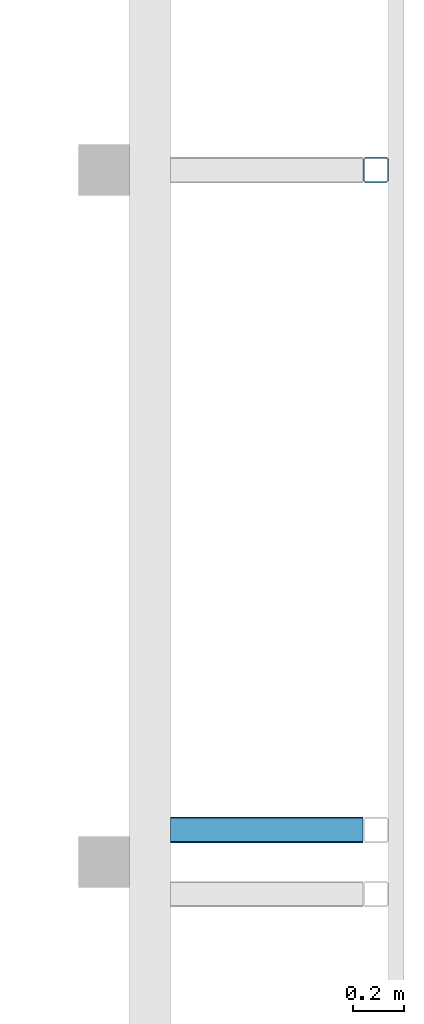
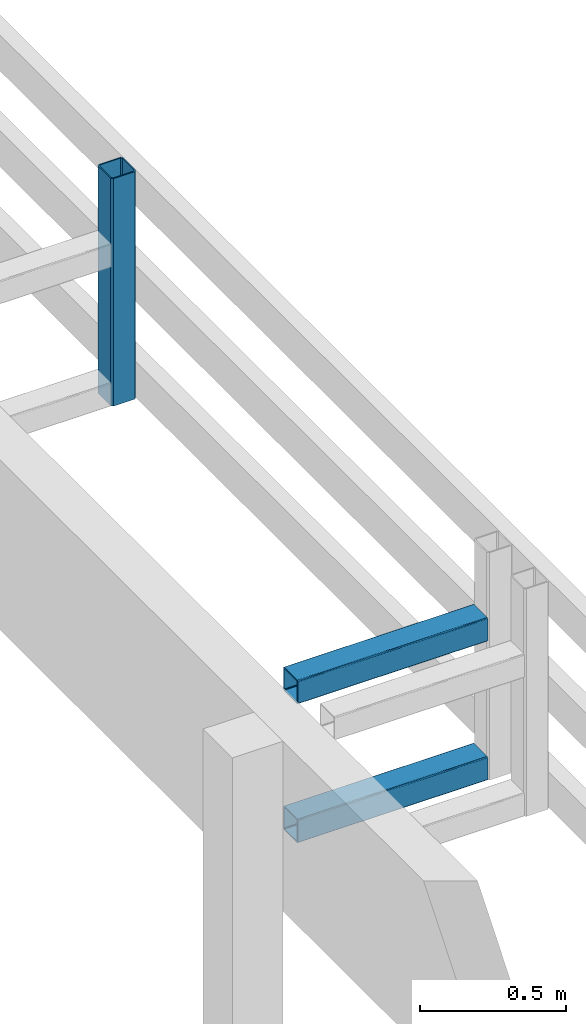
# One storey, part 38 of 42: 3 members.
"""IFC4 building model written with IfcOpenShell, lengths in metres."""

from ifc_helpers import new_model, entity, si_unit, converted_unit, derived_unit, frame, origin, place, context, subcontext, project, spatial, faceted_brep, material, element, save


model = new_model("IFC4")

# Units and contexts
model_context = context("Model", 3, precision=1e-05, world=origin())
plan_context = context("Plan", 2, precision=1e-05, world=origin())
body_context = subcontext(model_context, "Body", "Model", "MODEL_VIEW")
ifc_project = project(units=[si_unit("LENGTHUNIT", "METRE"), si_unit("AREAUNIT", "SQUARE_METRE"), si_unit("VOLUMEUNIT", "CUBIC_METRE"), si_unit("MASSUNIT", "GRAM", prefix="KILO"), converted_unit("PLANEANGLEUNIT", "DEGREE", entity("IfcPlaneAngleMeasure", 0.0174532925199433), si_unit("PLANEANGLEUNIT", "RADIAN"), dimensions=[0, 0, 0, 0, 0, 0, 0]), derived_unit("THERMALTRANSMITTANCEUNIT", [(si_unit("POWERUNIT", "WATT"), 1), (si_unit("THERMODYNAMICTEMPERATUREUNIT", "KELVIN"), -1), (si_unit("LENGTHUNIT", "METRE"), -2)]), derived_unit("VOLUMETRICFLOWRATEUNIT", [(si_unit("LENGTHUNIT", "METRE"), 3), (converted_unit("TIMEUNIT", "hour", entity("IfcTimeMeasure", 3600.0), si_unit("TIMEUNIT", "SECOND"), dimensions=[0, 0, 1, 0, 0, 0, 0]), -1), (si_unit("LENGTHUNIT", "METRE"), -1)])], contexts=[model_context, plan_context])

# Site, building, storey
site_placement = place(None, origin())
site = spatial("IfcSite", under=ifc_project, at=site_placement, Name="Site", CompositionType="ELEMENT")
building_placement = place(site_placement, origin())
building = spatial("IfcBuilding", under=site, at=building_placement, Name="Admin", CompositionType="ELEMENT")
storey_placement = place(building_placement, frame((0.0, 0.0, 6.61)))
storey = spatial("IfcBuildingStorey", under=building, at=storey_placement, Name="02-Etage2", CompositionType="ELEMENT", Elevation=6.61)

# Members
ifc_material_1 = material(Name="S235")
member_1_placement = place(storey_placement, frame((58.9698001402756, 19.7594494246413, 2.28)))
element("IfcMember", 1, at=member_1_placement, inside=storey, material=ifc_material_1, Name="Bandeau R+2", context=body_context, shape_type="Brep", body=[
    faceted_brep([(0.0050000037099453, 0.00999999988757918, 0.0), (0.0050000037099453, 0.00999999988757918, 0.95), (0.00500000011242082, 0.0899999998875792, 0.95), (0.00500000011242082, 0.0899999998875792, 0.0), (0.0100000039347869, 0.0050000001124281, 0.0), (0.0100000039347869, 0.0050000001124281, 0.95), (0.090000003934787, 0.0050000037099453, 0.0), (0.090000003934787, 0.0050000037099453, 0.95), (0.0950000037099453, 0.0100000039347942, 0.0), (0.0950000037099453, 0.0100000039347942, 0.95), (0.0950000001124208, 0.0900000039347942, 0.0), (0.0950000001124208, 0.0900000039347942, 0.95), (0.0899999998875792, 0.0950000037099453, 0.0), (0.0899999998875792, 0.0950000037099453, 0.95), (0.00999999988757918, 0.0950000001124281, 0.0), (0.00999999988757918, 0.0950000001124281, 0.95), (0.00749999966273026, 0.1, 0.0), (0.00749999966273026, 0.1, 0.95), (0.0, 0.0924999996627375, 0.95), (0.0, 0.0924999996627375, 0.0), (0.0924999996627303, 0.100000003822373, 0.0), (0.0924999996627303, 0.100000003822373, 0.95), (0.1, 0.0925000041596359, 0.0), (0.1, 0.0925000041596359, 0.95), (0.100000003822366, 0.00750000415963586, 0.0), (0.100000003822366, 0.00750000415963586, 0.95), (0.0925000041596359, 3.82237340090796e-09, 0.0), (0.0925000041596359, 3.82237340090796e-09, 0.95), (0.00750000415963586, 0.0, 0.0), (0.00750000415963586, 0.0, 0.95), (3.82236612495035e-09, 0.00749999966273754, 0.0), (3.82236612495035e-09, 0.00749999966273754, 0.95)], [[[0, 1, 2, 3]], [[4, 5, 1, 0]], [[6, 7, 5, 4]], [[8, 9, 7, 6]], [[10, 11, 9, 8]], [[12, 13, 11, 10]], [[14, 15, 13, 12]], [[3, 2, 15, 14]], [[16, 17, 18, 19]], [[20, 21, 17, 16]], [[22, 23, 21, 20]], [[24, 25, 23, 22]], [[26, 27, 25, 24]], [[28, 29, 27, 26]], [[30, 31, 29, 28]], [[19, 18, 31, 30]], [[18, 17, 21, 23, 25, 27, 29, 31], [2, 1, 5, 7, 9, 11, 13, 15]], [[19, 30, 28, 26, 24, 22, 20, 16], [3, 14, 12, 10, 8, 6, 4, 0]]], orient=[[False], [False], [False], [False], [False], [False], [False], [False], [False], [False], [False], [False], [False], [False], [False], [False], [False, False], [False, False]]),
])
ifc_material_2 = material(Name="S235")
member_2_placement = place(storey_placement, frame((58.2198001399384, 17.1844493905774, 2.28)))
element("IfcMember", 2, at=member_2_placement, inside=storey, material=ifc_material_2, Name="Bandeau R+2", context=body_context, shape_type="Brep", body=[
    faceted_brep([(0.750000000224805, 0.0950000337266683, 0.09), (0.750000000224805, 0.0950000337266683, 0.01), (2.24834366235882e-10, 0.095, 0.01), (2.24834366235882e-10, 0.095, 0.09), (0.750000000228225, 0.094924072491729, 0.0908682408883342), (2.28254066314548e-10, 0.0949240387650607, 0.0908682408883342), (0.750000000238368, 0.0946984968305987, 0.0917101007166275), (2.3839675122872e-10, 0.0946984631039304, 0.0917101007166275), (0.750000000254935, 0.0943301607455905, 0.0925), (2.54964106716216e-10, 0.0943301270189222, 0.0925), (0.75000000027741, 0.0938302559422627, 0.0932139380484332), (2.77439539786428e-10, 0.0938302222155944, 0.0932139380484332), (0.750000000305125, 0.0932139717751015, 0.0938302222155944), (3.05153662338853e-10, 0.0932139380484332, 0.0938302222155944), (0.750000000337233, 0.0925000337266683, 0.0943301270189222), (3.37262463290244e-10, 0.0925, 0.0943301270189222), (0.750000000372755, 0.0917101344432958, 0.0946984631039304), (3.72783688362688e-10, 0.0917101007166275, 0.0946984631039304), (0.750000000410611, 0.0908682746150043, 0.0949240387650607), (4.10640495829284e-10, 0.090868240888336, 0.0949240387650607), (0.750000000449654, 0.0900000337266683, 0.095), (4.49683284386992e-10, 0.09, 0.095), (0.750000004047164, 0.0100000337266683, 0.095), (4.04719321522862e-09, 0.01, 0.095), (0.750000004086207, 0.00913179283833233, 0.0949240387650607), (4.08623600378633e-09, 0.009131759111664, 0.0949240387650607), (0.750000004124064, 0.00828993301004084, 0.0946984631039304), (4.12409281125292e-09, 0.00828989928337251, 0.0946984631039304), (0.750000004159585, 0.00750003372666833, 0.0943301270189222), (4.15961403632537e-09, 0.0075, 0.0943301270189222), (0.750000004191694, 0.00678609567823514, 0.0938302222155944), (4.19172283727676e-09, 0.00678606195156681, 0.0938302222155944), (0.750000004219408, 0.00616981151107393, 0.0932139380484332), (4.21943695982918e-09, 0.0061697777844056, 0.0932139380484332), (0.750000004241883, 0.00566990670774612, 0.0925), (4.24191239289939e-09, 0.00566987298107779, 0.0925), (0.750000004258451, 0.00530157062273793, 0.0917101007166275), (4.25847974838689e-09, 0.00530153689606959, 0.0917101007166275), (0.750000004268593, 0.00507599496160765, 0.0908682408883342), (4.26862243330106e-09, 0.00507596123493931, 0.0908682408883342), (0.750000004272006, 0.00500003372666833, 0.09), (4.27203485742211e-09, 0.005, 0.09), (0.750000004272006, 0.00500003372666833, 0.01), (4.27203485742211e-09, 0.005, 0.01), (0.750000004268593, 0.00507599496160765, 0.00913175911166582), (4.26862243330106e-09, 0.00507596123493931, 0.00913175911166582), (0.750000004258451, 0.00530157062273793, 0.00828989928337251), (4.25847974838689e-09, 0.00530153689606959, 0.00828989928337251), (0.750000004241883, 0.00566990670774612, 0.0075), (4.24191239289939e-09, 0.00566987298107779, 0.0075), (0.750000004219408, 0.00616981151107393, 0.00678606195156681), (4.21943695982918e-09, 0.0061697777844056, 0.00678606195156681), (0.750000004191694, 0.00678609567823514, 0.0061697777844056), (4.19172283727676e-09, 0.00678606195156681, 0.0061697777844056), (0.750000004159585, 0.00750003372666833, 0.00566987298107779), (4.15961403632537e-09, 0.0075, 0.00566987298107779), (0.750000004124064, 0.00828993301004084, 0.00530153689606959), (4.12409281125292e-09, 0.00828989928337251, 0.00530153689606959), (0.750000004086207, 0.00913179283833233, 0.00507596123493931), (4.08623600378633e-09, 0.009131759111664, 0.00507596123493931), (0.750000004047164, 0.0100000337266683, 0.005), (4.04719321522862e-09, 0.01, 0.005), (0.750000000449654, 0.0900000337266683, 0.005), (4.49683284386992e-10, 0.09, 0.005), (0.750000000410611, 0.0908682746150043, 0.00507596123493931), (4.10640495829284e-10, 0.090868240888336, 0.00507596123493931), (0.750000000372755, 0.0917101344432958, 0.00530153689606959), (3.72783688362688e-10, 0.0917101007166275, 0.00530153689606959), (0.750000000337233, 0.0925000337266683, 0.00566987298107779), (3.37262463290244e-10, 0.0925, 0.00566987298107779), (0.750000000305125, 0.0932139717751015, 0.0061697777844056), (3.05153662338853e-10, 0.0932139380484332, 0.0061697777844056), (0.75000000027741, 0.0938302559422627, 0.00678606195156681), (2.77439539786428e-10, 0.0938302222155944, 0.00678606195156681), (0.750000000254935, 0.0943301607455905, 0.0075), (2.54964106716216e-10, 0.0943301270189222, 0.0075), (0.750000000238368, 0.0946984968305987, 0.00828989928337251), (2.3839675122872e-10, 0.0946984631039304, 0.00828989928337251), (0.750000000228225, 0.094924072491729, 0.00913175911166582), (2.28254066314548e-10, 0.0949240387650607, 0.00913175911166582), (0.750000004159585, 0.00750003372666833, 0.1), (0.750000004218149, 0.00619767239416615, 0.099886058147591), (4.21817821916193e-09, 0.00619763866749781, 0.099886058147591), (4.15961403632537e-09, 0.0075, 0.1), (0.750000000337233, 0.0925000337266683, 0.1), (3.37262463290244e-10, 0.0925, 0.1), (0.750000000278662, 0.0938023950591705, 0.099886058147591), (2.78691004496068e-10, 0.0938023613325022, 0.099886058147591), (0.75000000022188, 0.0950651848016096, 0.0995476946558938), (2.2190943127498e-10, 0.0950651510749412, 0.0995476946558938), (0.750000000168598, 0.0962500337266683, 0.0989951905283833), (1.68627593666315e-10, 0.09625, 0.0989951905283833), (0.750000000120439, 0.0973209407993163, 0.0982453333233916), (1.20468030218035e-10, 0.097320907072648, 0.0982453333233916), (0.750000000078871, 0.0982453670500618, 0.0973209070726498), (7.89004843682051e-11, 0.0982453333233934, 0.0973209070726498), (0.750000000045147, 0.0989952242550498, 0.09625), (4.51764208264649e-11, 0.0989951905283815, 0.09625), (0.7500000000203, 0.099547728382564, 0.0950651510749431), (2.03290255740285e-11, 0.0995476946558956, 0.0950651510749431), (0.750000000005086, 0.0998860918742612, 0.0938023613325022), (5.11499820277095e-12, 0.0998860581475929, 0.0938023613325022), (0.749999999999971, 0.100000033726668, 0.0925), (0.0, 0.1, 0.0925), (0.750000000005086, 0.0998860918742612, 0.00619763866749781), (0.749999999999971, 0.100000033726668, 0.0075), (0.0, 0.1, 0.0075), (5.11499820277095e-12, 0.0998860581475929, 0.00619763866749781), (0.7500000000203, 0.099547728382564, 0.00493484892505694), (2.03290255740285e-11, 0.0995476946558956, 0.00493484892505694), (0.750000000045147, 0.0989952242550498, 0.00375), (4.51764208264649e-11, 0.0989951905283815, 0.00375), (0.750000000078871, 0.0982453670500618, 0.00267909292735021), (7.89004843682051e-11, 0.0982453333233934, 0.00267909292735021), (0.750000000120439, 0.0973209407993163, 0.00175466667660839), (1.20468030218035e-10, 0.097320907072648, 0.00175466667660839), (0.750000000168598, 0.0962500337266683, 0.00100480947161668), (1.68627593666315e-10, 0.09625, 0.00100480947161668), (0.75000000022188, 0.0950651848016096, 0.000452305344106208), (2.2190943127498e-10, 0.0950651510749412, 0.000452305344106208), (0.750000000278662, 0.0938023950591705, 0.000113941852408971), (2.78691004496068e-10, 0.0938023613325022, 0.000113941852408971), (0.750000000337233, 0.0925000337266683, 0.0), (3.37262463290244e-10, 0.0925, 0.0), (0.750000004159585, 0.00750003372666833, 0.0), (4.15961403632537e-09, 0.0075, 0.0), (0.750000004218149, 0.00619767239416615, 0.000113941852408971), (4.21817821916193e-09, 0.00619763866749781, 0.000113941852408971), (0.750000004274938, 0.00493488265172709, 0.000452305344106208), (4.27496706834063e-09, 0.00493484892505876, 0.000452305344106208), (0.75000000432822, 0.00375003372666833, 0.00100480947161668), (4.32824890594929e-09, 0.00375, 0.00100480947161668), (0.750000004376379, 0.00267912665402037, 0.00175466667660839), (4.37640846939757e-09, 0.00267909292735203, 0.00175466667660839), (0.750000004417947, 0.00175470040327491, 0.00267909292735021), (4.4179760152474e-09, 0.00175466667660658, 0.00267909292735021), (0.750000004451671, 0.00100484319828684, 0.00375), (4.45170007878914e-09, 0.0010048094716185, 0.00375), (0.750000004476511, 0.000452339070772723, 0.00493484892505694), (4.47654019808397e-09, 0.000452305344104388, 0.00493484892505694), (0.750000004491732, 0.000113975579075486, 0.00619763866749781), (4.49176150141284e-09, 0.000113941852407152, 0.00619763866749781), (0.750000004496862, 3.37266683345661e-08, 0.0075), (4.49688377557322e-09, 0.0, 0.0075), (0.750000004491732, 0.000113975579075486, 0.0938023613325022), (0.750000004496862, 3.37266683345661e-08, 0.0925), (4.49688377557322e-09, 0.0, 0.0925), (4.49176150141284e-09, 0.000113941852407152, 0.0938023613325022), (0.750000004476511, 0.000452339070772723, 0.0950651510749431), (4.47654019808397e-09, 0.000452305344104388, 0.0950651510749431), (0.750000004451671, 0.00100484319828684, 0.09625), (4.45170007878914e-09, 0.0010048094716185, 0.09625), (0.750000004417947, 0.00175470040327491, 0.0973209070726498), (4.4179760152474e-09, 0.00175466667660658, 0.0973209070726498), (0.750000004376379, 0.00267912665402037, 0.0982453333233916), (4.37640846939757e-09, 0.00267909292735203, 0.0982453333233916), (0.75000000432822, 0.00375003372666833, 0.0989951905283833), (4.32824890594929e-09, 0.00375, 0.0989951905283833), (0.750000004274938, 0.00493488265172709, 0.0995476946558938), (4.27496706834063e-09, 0.00493484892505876, 0.0995476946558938)], [[[0, 1, 2, 3]], [[4, 0, 3, 5]], [[6, 4, 5, 7]], [[8, 6, 7, 9]], [[10, 8, 9, 11]], [[12, 10, 11, 13]], [[14, 12, 13, 15]], [[16, 14, 15, 17]], [[18, 16, 17, 19]], [[20, 18, 19, 21]], [[22, 20, 21, 23]], [[24, 22, 23, 25]], [[26, 24, 25, 27]], [[28, 26, 27, 29]], [[30, 28, 29, 31]], [[32, 30, 31, 33]], [[34, 32, 33, 35]], [[36, 34, 35, 37]], [[38, 36, 37, 39]], [[40, 38, 39, 41]], [[42, 40, 41, 43]], [[44, 42, 43, 45]], [[46, 44, 45, 47]], [[48, 46, 47, 49]], [[50, 48, 49, 51]], [[52, 50, 51, 53]], [[54, 52, 53, 55]], [[56, 54, 55, 57]], [[58, 56, 57, 59]], [[60, 58, 59, 61]], [[62, 60, 61, 63]], [[64, 62, 63, 65]], [[66, 64, 65, 67]], [[68, 66, 67, 69]], [[70, 68, 69, 71]], [[72, 70, 71, 73]], [[74, 72, 73, 75]], [[76, 74, 75, 77]], [[78, 76, 77, 79]], [[1, 78, 79, 2]], [[80, 81, 82, 83]], [[84, 80, 83, 85]], [[86, 84, 85, 87]], [[88, 86, 87, 89]], [[90, 88, 89, 91]], [[92, 90, 91, 93]], [[94, 92, 93, 95]], [[96, 94, 95, 97]], [[98, 96, 97, 99]], [[100, 98, 99, 101]], [[102, 100, 101, 103]], [[104, 105, 106, 107]], [[108, 104, 107, 109]], [[110, 108, 109, 111]], [[112, 110, 111, 113]], [[114, 112, 113, 115]], [[116, 114, 115, 117]], [[118, 116, 117, 119]], [[120, 118, 119, 121]], [[122, 120, 121, 123]], [[124, 122, 123, 125]], [[126, 124, 125, 127]], [[128, 126, 127, 129]], [[130, 128, 129, 131]], [[132, 130, 131, 133]], [[134, 132, 133, 135]], [[136, 134, 135, 137]], [[138, 136, 137, 139]], [[140, 138, 139, 141]], [[142, 140, 141, 143]], [[144, 145, 146, 147]], [[148, 144, 147, 149]], [[150, 148, 149, 151]], [[152, 150, 151, 153]], [[154, 152, 153, 155]], [[156, 154, 155, 157]], [[158, 156, 157, 159]], [[81, 158, 159, 82]], [[146, 143, 141, 139, 137, 135, 133, 131, 129, 127, 125, 123, 121, 119, 117, 115, 113, 111, 109, 107, 106, 103, 101, 99, 97, 95, 93, 91, 89, 87, 85, 83, 82, 159, 157, 155, 153, 151, 149, 147], [2, 79, 77, 75, 73, 71, 69, 67, 65, 63, 61, 59, 57, 55, 53, 51, 49, 47, 45, 43, 41, 39, 37, 35, 33, 31, 29, 27, 25, 23, 21, 19, 17, 15, 13, 11, 9, 7, 5, 3]], [[103, 106, 105, 102]], [[102, 105, 104, 108, 110, 112, 114, 116, 118, 120, 122, 124, 126, 128, 130, 132, 134, 136, 138, 140, 142, 145, 144, 148, 150, 152, 154, 156, 158, 81, 80, 84, 86, 88, 90, 92, 94, 96, 98, 100], [1, 0, 4, 6, 8, 10, 12, 14, 16, 18, 20, 22, 24, 26, 28, 30, 32, 34, 36, 38, 40, 42, 44, 46, 48, 50, 52, 54, 56, 58, 60, 62, 64, 66, 68, 70, 72, 74, 76, 78]], [[145, 142, 143, 146]]], orient=[[False], [False], [False], [False], [False], [False], [False], [False], [False], [False], [False], [False], [False], [False], [False], [False], [False], [False], [False], [False], [False], [False], [False], [False], [False], [False], [False], [False], [False], [False], [False], [False], [False], [False], [False], [False], [False], [False], [False], [False], [False], [False], [False], [False], [False], [False], [False], [False], [False], [False], [False], [False], [False], [False], [False], [False], [False], [False], [False], [False], [False], [False], [False], [False], [False], [False], [False], [False], [False], [False], [False], [False], [False], [False], [False], [False], [False], [False], [False, False], [False], [False, False], [False]]),
])
ifc_material_3 = material(Name="S235")
member_3_placement = place(storey_placement, frame((58.2198001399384, 17.1844493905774, 2.86)))
element("IfcMember", 3, at=member_3_placement, inside=storey, material=ifc_material_3, Name="Bandeau R+2", context=body_context, shape_type="Brep", body=[
    faceted_brep([(0.75000000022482, 0.0950000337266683, 0.09), (0.75000000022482, 0.0950000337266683, 0.01), (2.24827090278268e-10, 0.095, 0.01), (2.24827090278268e-10, 0.095, 0.09), (0.75000000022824, 0.094924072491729, 0.0908682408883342), (2.28246790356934e-10, 0.0949240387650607, 0.0908682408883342), (0.750000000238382, 0.0946984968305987, 0.0917101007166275), (2.38389475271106e-10, 0.0946984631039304, 0.0917101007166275), (0.75000000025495, 0.0943301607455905, 0.0925), (2.54956830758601e-10, 0.0943301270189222, 0.0925), (0.750000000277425, 0.0938302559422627, 0.0932139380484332), (2.77432263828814e-10, 0.0938302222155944, 0.0932139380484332), (0.750000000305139, 0.0932139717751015, 0.0938302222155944), (3.05146386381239e-10, 0.0932139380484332, 0.0938302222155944), (0.750000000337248, 0.0925000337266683, 0.0943301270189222), (3.3725518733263e-10, 0.0925, 0.0943301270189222), (0.750000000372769, 0.0917101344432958, 0.0946984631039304), (3.72776412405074e-10, 0.0917101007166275, 0.0946984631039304), (0.750000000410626, 0.0908682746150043, 0.0949240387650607), (4.1063321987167e-10, 0.090868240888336, 0.0949240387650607), (0.750000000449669, 0.0900000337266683, 0.095), (4.49676008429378e-10, 0.09, 0.095), (0.750000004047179, 0.0100000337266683, 0.095), (4.047185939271e-09, 0.01, 0.095), (0.750000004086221, 0.00913179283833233, 0.0949240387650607), (4.08622872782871e-09, 0.009131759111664, 0.0949240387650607), (0.750000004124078, 0.00828993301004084, 0.0946984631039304), (4.12408553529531e-09, 0.00828989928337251, 0.0946984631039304), (0.7500000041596, 0.00750003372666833, 0.0943301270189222), (4.15960676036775e-09, 0.0075, 0.0943301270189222), (0.750000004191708, 0.00678609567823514, 0.0938302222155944), (4.19171556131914e-09, 0.00678606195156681, 0.0938302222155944), (0.750000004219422, 0.00616981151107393, 0.0932139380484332), (4.21942968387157e-09, 0.0061697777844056, 0.0932139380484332), (0.750000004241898, 0.00566990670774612, 0.0925), (4.24190511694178e-09, 0.00566987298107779, 0.0925), (0.750000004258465, 0.00530157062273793, 0.0917101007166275), (4.25847247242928e-09, 0.00530153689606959, 0.0917101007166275), (0.750000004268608, 0.00507599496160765, 0.0908682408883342), (4.26861515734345e-09, 0.00507596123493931, 0.0908682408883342), (0.75000000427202, 0.00500003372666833, 0.09), (4.2720275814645e-09, 0.005, 0.09), (0.75000000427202, 0.00500003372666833, 0.01), (4.2720275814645e-09, 0.005, 0.01), (0.750000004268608, 0.00507599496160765, 0.00913175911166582), (4.26861515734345e-09, 0.00507596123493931, 0.00913175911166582), (0.750000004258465, 0.00530157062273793, 0.00828989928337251), (4.25847247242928e-09, 0.00530153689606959, 0.00828989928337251), (0.750000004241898, 0.00566990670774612, 0.0075), (4.24190511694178e-09, 0.00566987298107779, 0.0075), (0.750000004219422, 0.00616981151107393, 0.00678606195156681), (4.21942968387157e-09, 0.0061697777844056, 0.00678606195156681), (0.750000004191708, 0.00678609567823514, 0.0061697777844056), (4.19171556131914e-09, 0.00678606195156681, 0.0061697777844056), (0.7500000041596, 0.00750003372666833, 0.00566987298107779), (4.15960676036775e-09, 0.0075, 0.00566987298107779), (0.750000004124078, 0.00828993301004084, 0.00530153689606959), (4.12408553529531e-09, 0.00828989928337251, 0.00530153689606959), (0.750000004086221, 0.00913179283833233, 0.00507596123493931), (4.08622872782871e-09, 0.009131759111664, 0.00507596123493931), (0.750000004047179, 0.0100000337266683, 0.005), (4.047185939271e-09, 0.01, 0.005), (0.750000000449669, 0.0900000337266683, 0.005), (4.49676008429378e-10, 0.09, 0.005), (0.750000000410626, 0.0908682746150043, 0.00507596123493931), (4.1063321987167e-10, 0.090868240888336, 0.00507596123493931), (0.750000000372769, 0.0917101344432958, 0.00530153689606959), (3.72776412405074e-10, 0.0917101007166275, 0.00530153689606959), (0.750000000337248, 0.0925000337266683, 0.00566987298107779), (3.3725518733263e-10, 0.0925, 0.00566987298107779), (0.750000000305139, 0.0932139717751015, 0.0061697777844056), (3.05146386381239e-10, 0.0932139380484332, 0.0061697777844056), (0.750000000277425, 0.0938302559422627, 0.00678606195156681), (2.77432263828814e-10, 0.0938302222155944, 0.00678606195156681), (0.75000000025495, 0.0943301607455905, 0.0075), (2.54956830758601e-10, 0.0943301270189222, 0.0075), (0.750000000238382, 0.0946984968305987, 0.00828989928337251), (2.38389475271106e-10, 0.0946984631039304, 0.00828989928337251), (0.75000000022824, 0.094924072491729, 0.00913175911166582), (2.28246790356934e-10, 0.0949240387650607, 0.00913175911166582), (0.7500000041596, 0.00750003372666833, 0.1), (0.750000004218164, 0.00619767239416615, 0.099886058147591), (4.21817094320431e-09, 0.00619763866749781, 0.099886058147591), (4.15960676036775e-09, 0.0075, 0.1), (0.750000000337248, 0.0925000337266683, 0.1), (3.3725518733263e-10, 0.0925, 0.1), (0.750000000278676, 0.0938023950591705, 0.099886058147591), (2.78683728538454e-10, 0.0938023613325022, 0.099886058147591), (0.750000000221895, 0.0950651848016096, 0.0995476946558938), (2.21902155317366e-10, 0.0950651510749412, 0.0995476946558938), (0.750000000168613, 0.0962500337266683, 0.0989951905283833), (1.68620317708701e-10, 0.09625, 0.0989951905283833), (0.750000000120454, 0.0973209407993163, 0.0982453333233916), (1.20460754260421e-10, 0.097320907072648, 0.0982453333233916), (0.750000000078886, 0.0982453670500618, 0.0973209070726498), (7.88932084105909e-11, 0.0982453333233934, 0.0973209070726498), (0.750000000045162, 0.0989952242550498, 0.09625), (4.51691448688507e-11, 0.0989951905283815, 0.09625), (0.750000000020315, 0.099547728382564, 0.0950651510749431), (2.03217496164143e-11, 0.0995476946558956, 0.0950651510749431), (0.7500000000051, 0.0998860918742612, 0.0938023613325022), (5.10772224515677e-12, 0.0998860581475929, 0.0938023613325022), (0.749999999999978, 0.100000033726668, 0.0925), (0.0, 0.1, 0.0925), (0.7500000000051, 0.0998860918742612, 0.00619763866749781), (0.749999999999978, 0.100000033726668, 0.0075), (0.0, 0.1, 0.0075), (5.10772224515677e-12, 0.0998860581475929, 0.00619763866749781), (0.750000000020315, 0.099547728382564, 0.00493484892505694), (2.03217496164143e-11, 0.0995476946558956, 0.00493484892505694), (0.750000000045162, 0.0989952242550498, 0.00375), (4.51691448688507e-11, 0.0989951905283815, 0.00375), (0.750000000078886, 0.0982453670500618, 0.00267909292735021), (7.88932084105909e-11, 0.0982453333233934, 0.00267909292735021), (0.750000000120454, 0.0973209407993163, 0.00175466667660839), (1.20460754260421e-10, 0.097320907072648, 0.00175466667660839), (0.750000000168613, 0.0962500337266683, 0.00100480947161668), (1.68620317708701e-10, 0.09625, 0.00100480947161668), (0.750000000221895, 0.0950651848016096, 0.000452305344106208), (2.21902155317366e-10, 0.0950651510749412, 0.000452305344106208), (0.750000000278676, 0.0938023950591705, 0.000113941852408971), (2.78683728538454e-10, 0.0938023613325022, 0.000113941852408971), (0.750000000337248, 0.0925000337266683, 0.0), (3.3725518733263e-10, 0.0925, 0.0), (0.7500000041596, 0.00750003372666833, 0.0), (4.15960676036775e-09, 0.0075, 0.0), (0.750000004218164, 0.00619767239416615, 0.000113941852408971), (4.21817094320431e-09, 0.00619763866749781, 0.000113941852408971), (0.750000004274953, 0.00493488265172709, 0.000452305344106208), (4.27495979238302e-09, 0.00493484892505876, 0.000452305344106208), (0.750000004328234, 0.00375003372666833, 0.00100480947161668), (4.32824162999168e-09, 0.00375, 0.00100480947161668), (0.750000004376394, 0.00267912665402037, 0.00175466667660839), (4.37640119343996e-09, 0.00267909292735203, 0.00175466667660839), (0.750000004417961, 0.00175470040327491, 0.00267909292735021), (4.41796873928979e-09, 0.00175466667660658, 0.00267909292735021), (0.750000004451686, 0.00100484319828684, 0.00375), (4.45169280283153e-09, 0.0010048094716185, 0.00375), (0.750000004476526, 0.000452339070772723, 0.00493484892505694), (4.47653292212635e-09, 0.000452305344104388, 0.00493484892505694), (0.750000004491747, 0.000113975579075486, 0.00619763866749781), (4.49175422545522e-09, 0.000113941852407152, 0.00619763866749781), (0.750000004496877, 3.37266683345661e-08, 0.0075), (4.49688377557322e-09, 0.0, 0.0075), (0.750000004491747, 0.000113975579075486, 0.0938023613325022), (0.750000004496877, 3.37266683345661e-08, 0.0925), (4.49688377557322e-09, 0.0, 0.0925), (4.49175422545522e-09, 0.000113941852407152, 0.0938023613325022), (0.750000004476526, 0.000452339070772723, 0.0950651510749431), (4.47653292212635e-09, 0.000452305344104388, 0.0950651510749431), (0.750000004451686, 0.00100484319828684, 0.09625), (4.45169280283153e-09, 0.0010048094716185, 0.09625), (0.750000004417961, 0.00175470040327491, 0.0973209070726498), (4.41796873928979e-09, 0.00175466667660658, 0.0973209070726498), (0.750000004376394, 0.00267912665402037, 0.0982453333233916), (4.37640119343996e-09, 0.00267909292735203, 0.0982453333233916), (0.750000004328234, 0.00375003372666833, 0.0989951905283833), (4.32824162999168e-09, 0.00375, 0.0989951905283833), (0.750000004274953, 0.00493488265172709, 0.0995476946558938), (4.27495979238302e-09, 0.00493484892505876, 0.0995476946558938)], [[[0, 1, 2, 3]], [[4, 0, 3, 5]], [[6, 4, 5, 7]], [[8, 6, 7, 9]], [[10, 8, 9, 11]], [[12, 10, 11, 13]], [[14, 12, 13, 15]], [[16, 14, 15, 17]], [[18, 16, 17, 19]], [[20, 18, 19, 21]], [[22, 20, 21, 23]], [[24, 22, 23, 25]], [[26, 24, 25, 27]], [[28, 26, 27, 29]], [[30, 28, 29, 31]], [[32, 30, 31, 33]], [[34, 32, 33, 35]], [[36, 34, 35, 37]], [[38, 36, 37, 39]], [[40, 38, 39, 41]], [[42, 40, 41, 43]], [[44, 42, 43, 45]], [[46, 44, 45, 47]], [[48, 46, 47, 49]], [[50, 48, 49, 51]], [[52, 50, 51, 53]], [[54, 52, 53, 55]], [[56, 54, 55, 57]], [[58, 56, 57, 59]], [[60, 58, 59, 61]], [[62, 60, 61, 63]], [[64, 62, 63, 65]], [[66, 64, 65, 67]], [[68, 66, 67, 69]], [[70, 68, 69, 71]], [[72, 70, 71, 73]], [[74, 72, 73, 75]], [[76, 74, 75, 77]], [[78, 76, 77, 79]], [[1, 78, 79, 2]], [[80, 81, 82, 83]], [[84, 80, 83, 85]], [[86, 84, 85, 87]], [[88, 86, 87, 89]], [[90, 88, 89, 91]], [[92, 90, 91, 93]], [[94, 92, 93, 95]], [[96, 94, 95, 97]], [[98, 96, 97, 99]], [[100, 98, 99, 101]], [[102, 100, 101, 103]], [[104, 105, 106, 107]], [[108, 104, 107, 109]], [[110, 108, 109, 111]], [[112, 110, 111, 113]], [[114, 112, 113, 115]], [[116, 114, 115, 117]], [[118, 116, 117, 119]], [[120, 118, 119, 121]], [[122, 120, 121, 123]], [[124, 122, 123, 125]], [[126, 124, 125, 127]], [[128, 126, 127, 129]], [[130, 128, 129, 131]], [[132, 130, 131, 133]], [[134, 132, 133, 135]], [[136, 134, 135, 137]], [[138, 136, 137, 139]], [[140, 138, 139, 141]], [[142, 140, 141, 143]], [[144, 145, 146, 147]], [[148, 144, 147, 149]], [[150, 148, 149, 151]], [[152, 150, 151, 153]], [[154, 152, 153, 155]], [[156, 154, 155, 157]], [[158, 156, 157, 159]], [[81, 158, 159, 82]], [[146, 143, 141, 139, 137, 135, 133, 131, 129, 127, 125, 123, 121, 119, 117, 115, 113, 111, 109, 107, 106, 103, 101, 99, 97, 95, 93, 91, 89, 87, 85, 83, 82, 159, 157, 155, 153, 151, 149, 147], [2, 79, 77, 75, 73, 71, 69, 67, 65, 63, 61, 59, 57, 55, 53, 51, 49, 47, 45, 43, 41, 39, 37, 35, 33, 31, 29, 27, 25, 23, 21, 19, 17, 15, 13, 11, 9, 7, 5, 3]], [[103, 106, 105, 102]], [[102, 105, 104, 108, 110, 112, 114, 116, 118, 120, 122, 124, 126, 128, 130, 132, 134, 136, 138, 140, 142, 145, 144, 148, 150, 152, 154, 156, 158, 81, 80, 84, 86, 88, 90, 92, 94, 96, 98, 100], [1, 0, 4, 6, 8, 10, 12, 14, 16, 18, 20, 22, 24, 26, 28, 30, 32, 34, 36, 38, 40, 42, 44, 46, 48, 50, 52, 54, 56, 58, 60, 62, 64, 66, 68, 70, 72, 74, 76, 78]], [[145, 142, 143, 146]]], orient=[[False], [False], [False], [False], [False], [False], [False], [False], [False], [False], [False], [False], [False], [False], [False], [False], [False], [False], [False], [False], [False], [False], [False], [False], [False], [False], [False], [False], [False], [False], [False], [False], [False], [False], [False], [False], [False], [False], [False], [False], [False], [False], [False], [False], [False], [False], [False], [False], [False], [False], [False], [False], [False], [False], [False], [False], [False], [False], [False], [False], [False], [False], [False], [False], [False], [False], [False], [False], [False], [False], [False], [False], [False], [False], [False], [False], [False], [False], [False, False], [False], [False, False], [False]]),
])

save(model, "model.ifc")
